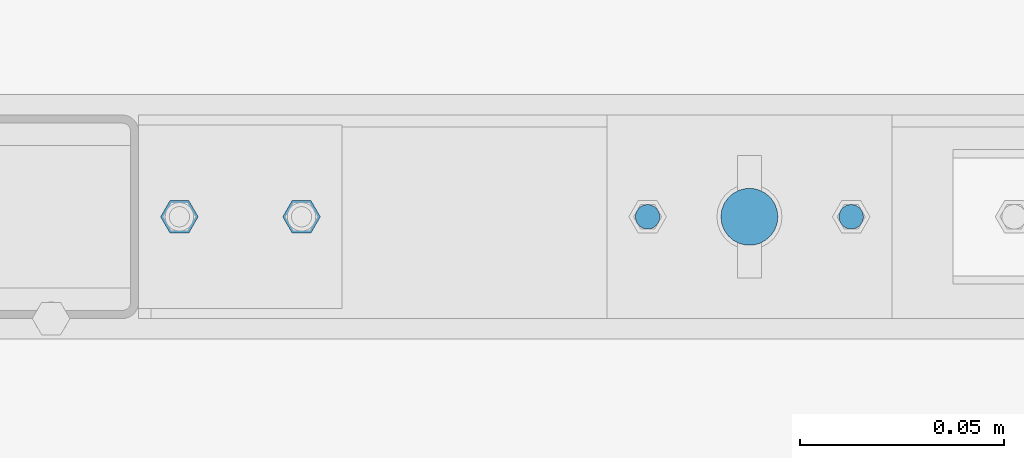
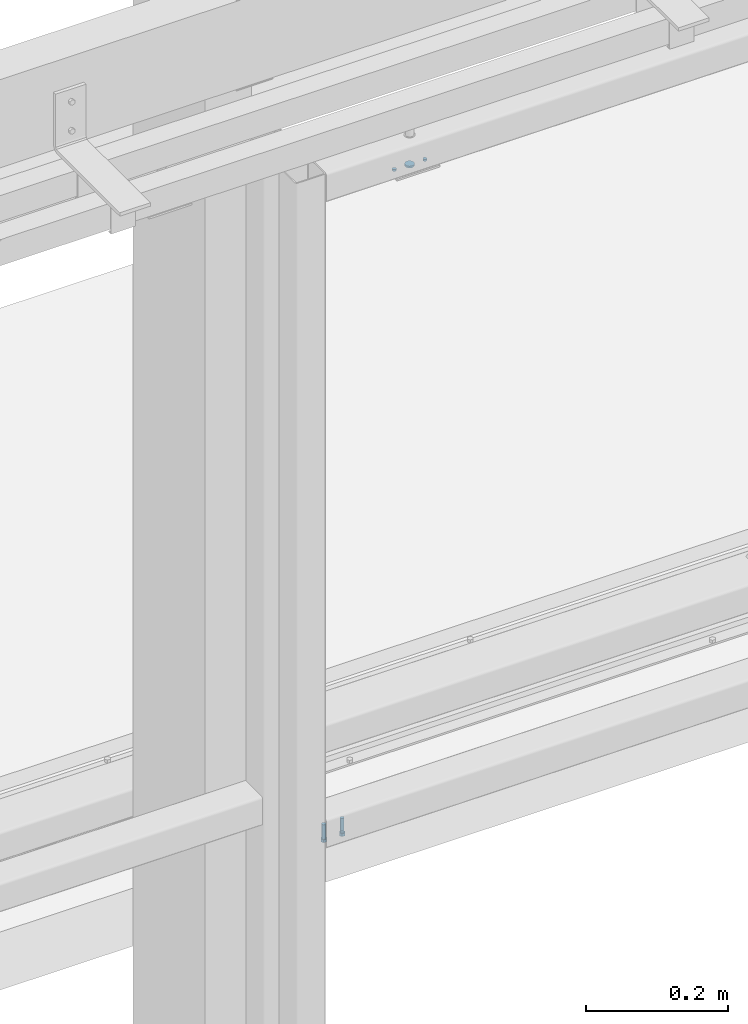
# One storey, part 31 of 91: 4 mechanical fasteners, 2 elements without a shape of their own.
"""IFC2X3 building model written with IfcOpenShell, lengths in millimetres."""

from ifc_helpers import new_model, si_unit, frame, origin_with_axes, origin_2d_with_axis, place, context, subcontext, project, spatial, polyline, circle, outline, extrude, source, transform, mapped, material, type_object, element, aggregate, save


model = new_model("IFC2X3")

# Units and contexts
model_context = context("Model", 3, precision=1e-05, world=origin_with_axes())
body_context = subcontext(model_context, "Body", "Model", "MODEL_VIEW")
ifc_project = project(units=[si_unit("LENGTHUNIT", "METRE", prefix="MILLI"), si_unit("AREAUNIT", "SQUARE_METRE"), si_unit("VOLUMEUNIT", "CUBIC_METRE"), si_unit("MASSUNIT", "GRAM", prefix="KILO"), si_unit("TIMEUNIT", "SECOND"), si_unit("PLANEANGLEUNIT", "RADIAN"), si_unit("SOLIDANGLEUNIT", "STERADIAN"), si_unit("THERMODYNAMICTEMPERATUREUNIT", "DEGREE_CELSIUS"), si_unit("LUMINOUSINTENSITYUNIT", "LUMEN")], contexts=[model_context])

# Site, building, storey
site_placement = place(None, origin_with_axes())
site = spatial("IfcSite", under=ifc_project, at=site_placement, Name="Undefined", CompositionType="ELEMENT")
building_placement = place(site_placement, origin_with_axes())
building = spatial("IfcBuilding", under=site, at=building_placement, Name="Undefined", CompositionType="ELEMENT")
storey_placement = place(building_placement, origin_with_axes())
storey = spatial("IfcBuildingStorey", under=building, at=storey_placement, Name="Undefined", CompositionType="ELEMENT", Elevation=0.0)

# Assembly, mechanical fasteners
assembly_1_placement = place(storey_placement, origin_with_axes())
assembly_1 = element("IfcElementAssembly", 1, at=assembly_1_placement, inside=storey, Name="ROD", AssemblyPlace="NOTDEFINED", PredefinedType="RIGID_FRAME")
ifc_material_1 = material(Name="8.8S")
discrete_accessory_type = type_object("IfcDiscreteAccessoryType", Name="Bolt assembly")
shared_shape_1 = source(origin_with_axes(), body_context, "Body", "SweptSolid", [
    extrude(circle(Radius=3.0, at=origin_2d_with_axis()), frame((0.0, -1.0, 0.0), z_axis=(0.0, 1.0, 0.0), x_axis=(1.0, 0.0, 0.0)), (0.0, 0.0, 1.0), 3.1),
])
mechanical_fastener_1_placement = place(assembly_1_placement, frame((-113558.34, 84618.15, 3324.0), z_axis=(0.0, 1.0, 0.0), x_axis=(-1.0, 0.0, 0.0)))
mechanical_fastener_1 = element("IfcMechanicalFastener", 2, at=mechanical_fastener_1_placement, type_object=discrete_accessory_type, material=ifc_material_1, Name="Bolt assembly", NominalDiameter=6.0, NominalLength=3.0, context=body_context, shape_type="MappedRepresentation", body=[
    mapped(shared_shape_1, transform((0.0, 0.0, 0.0))),
])
mechanical_fastener_2_placement = place(assembly_1_placement, frame((-113608.34, 84618.15, 3324.0), z_axis=(0.0, -1.0, 0.0), x_axis=(1.0, 0.0, 0.0)))
mechanical_fastener_2 = element("IfcMechanicalFastener", 3, at=mechanical_fastener_2_placement, type_object=discrete_accessory_type, material=ifc_material_1, Name="Bolt assembly", NominalDiameter=6.0, NominalLength=3.0, context=body_context, shape_type="MappedRepresentation", body=[
    mapped(shared_shape_1, transform((0.0, 0.0, 0.0))),
])
shared_shape_2 = source(origin_with_axes(), body_context, "Body", "SweptSolid", [
    extrude(circle(Radius=7.0, at=origin_2d_with_axis()), frame((0.0, -1.0, 0.0), z_axis=(0.0, 1.0, 0.0), x_axis=(1.0, 0.0, 0.0)), (0.0, 0.0, 1.0), 3.1),
])
mechanical_fastener_3_placement = place(assembly_1_placement, frame((-113583.34, 84618.15, 3324.0), z_axis=(0.0, -1.0, 0.0), x_axis=(1.0, 0.0, 0.0)))
mechanical_fastener_3 = element("IfcMechanicalFastener", 4, at=mechanical_fastener_3_placement, type_object=discrete_accessory_type, material=ifc_material_1, Name="Bolt assembly", NominalDiameter=12.0, NominalLength=3.0, context=body_context, shape_type="MappedRepresentation", body=[
    mapped(shared_shape_2, transform((0.0, 0.0, 0.0))),
])
aggregate(assembly_1, [mechanical_fastener_1, mechanical_fastener_2, mechanical_fastener_3])

# Assembly, mechanical fastener
assembly_2_placement = place(storey_placement, origin_with_axes())
assembly_2 = element("IfcElementAssembly", 5, at=assembly_2_placement, inside=storey, Name="SLIDING DOOR", AssemblyPlace="NOTDEFINED", PredefinedType="RIGID_FRAME")
ifc_material_2 = material(Name="TEK_11TPIM")
shared_shape_3 = source(origin_with_axes(), body_context, "Body", "SweptSolid", [
    extrude(circle(Radius=3.0, at=origin_2d_with_axis()), frame((0.0, 0.103333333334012, 0.0), z_axis=(0.0, 1.0, 0.0), x_axis=(1.0, 0.0, 0.0)), (0.0, 0.0, 1.0), 2.0),
    extrude(circle(Radius=3.0, at=origin_2d_with_axis()), frame((0.0, 2.4, 0.0), z_axis=(0.0, 1.0, 0.0), x_axis=(1.0, 0.0, 0.0)), (0.0, 0.0, 1.0), 1.7),
    extrude(outline(polyline([(4.61880215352, 0.0), (2.30940107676, 4.00000000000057), (-2.30940107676, 4.00000000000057), (-4.61880215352, 0.0), (-2.30940107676, -4.00000000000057), (2.30940107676, -4.00000000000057), (4.61880215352, 0.0)])), frame((0.0, -4.99666666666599, 0.0), z_axis=(0.0, 1.0, 0.0), x_axis=(1.0, 0.0, 0.0)), (0.0, 0.0, 1.0), 5.0),
    extrude(circle(Radius=3.0, at=origin_2d_with_axis()), frame((0.0, 0.0033333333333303, 0.0), z_axis=(0.0, 1.0, 0.0), x_axis=(1.0, 0.0, 0.0)), (0.0, 0.0, 1.0), 25.0),
    extrude(circle(Radius=3.0, at=origin_2d_with_axis()), frame((0.0, 4.10000002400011, 0.0), z_axis=(0.0, 1.0, 0.0), x_axis=(1.0, 0.0, 0.0)), (0.0, 0.0, 1.0), 0.1),
    extrude(outline(polyline([(3.46410161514, 0.0), (1.73205080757, 3.00000000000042), (-1.73205080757, 3.00000000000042), (-3.46410161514, 0.0), (-1.73205080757, -3.00000000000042), (1.73205080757, -3.00000000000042), (3.46410161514, 0.0)])), frame((0.0, 4.20000002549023, 0.0), z_axis=(0.0, 1.0, 0.0), x_axis=(1.0, 0.0, 0.0)), (0.0, 0.0, 1.0), 0.1),
])
mechanical_fastener_4_placement = place(assembly_2_placement, frame((-113723.34, 84618.15, 2211.66), z_axis=(0.0, -1.0, 0.0), x_axis=(1.0, 0.0, 0.0)))
mechanical_fastener_4 = element("IfcMechanicalFastener", 6, at=mechanical_fastener_4_placement, type_object=discrete_accessory_type, material=ifc_material_2, Name="Bolt assembly", NominalDiameter=6.0, NominalLength=25.0, context=body_context, shape_type="MappedRepresentation", body=[
    mapped(shared_shape_3, transform((0.0, 0.0, 0.0))),
    mapped(shared_shape_3, transform((30.0, 0.0, 0.0))),
])
aggregate(assembly_2, [mechanical_fastener_4])

save(model, "model.ifc")
